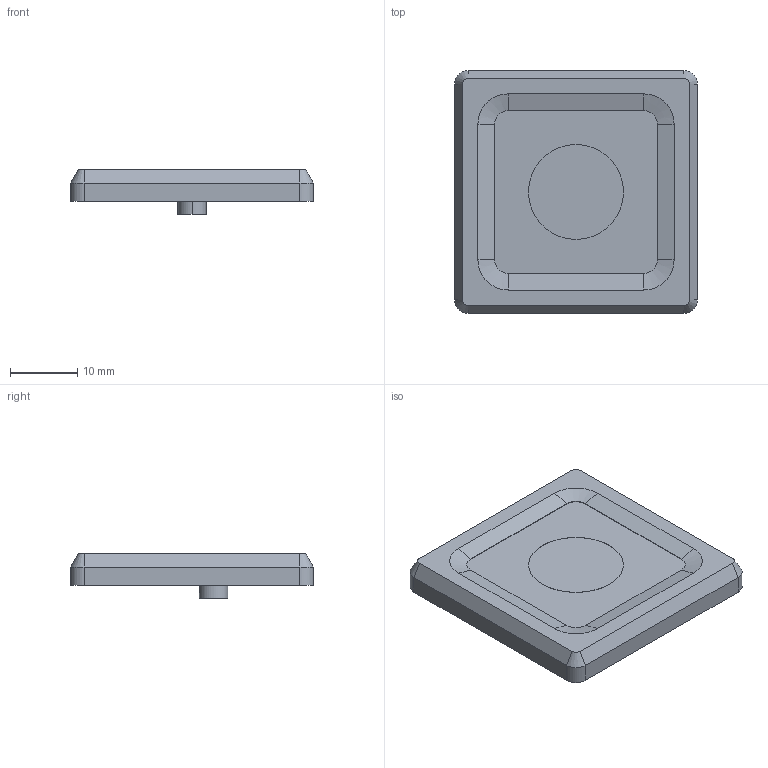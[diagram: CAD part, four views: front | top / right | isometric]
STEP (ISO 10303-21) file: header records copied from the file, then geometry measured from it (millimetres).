
FILE_DESCRIPTION(('CATIA V6 STEP'),'2;1');
FILE_NAME('\\10.27.23.11\fsati\FSATI COMPONENTS\01-00115 XANT Mid band RHCP\01-00115 XANT ASSEMBLY Rev B SANITISED.stp','2018-05-15T14:23:57+00:00',('DOC'),('none'),'CATIA V6R2013x','DASSAULT SYSTEMES CATIA V6 STEP AP203','none');
FILE_SCHEMA(('CONFIG_CONTROL_DESIGN'));
Length unit declared in the file: millimetre
Products named in the file (1): 01-00115 XANT ASSEMBLY Rev B
Bounding box: 36 x 36 x 6.67 mm (x, y, z)
Volume: 4446.1 mm3; surface area: 5032.4 mm2
Topology: 2 solids, 5 shells, 133 faces, 344 edges, 226 vertices
Faces by surface type: plane 59, cylinder 56, cone 18
Entity records: 4142 total; most frequent: CARTESIAN_POINT 949, ORIENTED_EDGE 676, DIRECTION 566, EDGE_CURVE 344, AXIS2_PLACEMENT_3D 251, VERTEX_POINT 226, VECTOR 196, LINE 196
